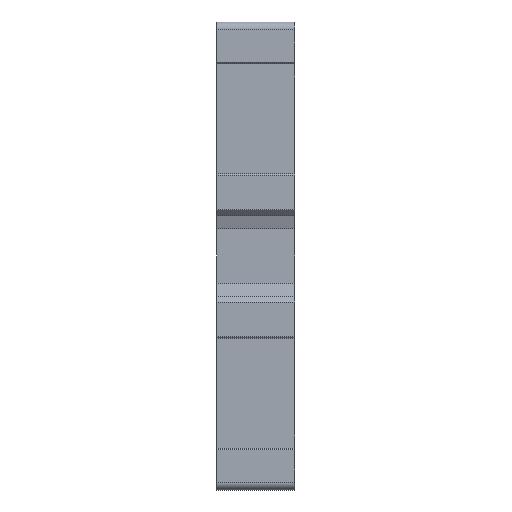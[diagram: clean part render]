
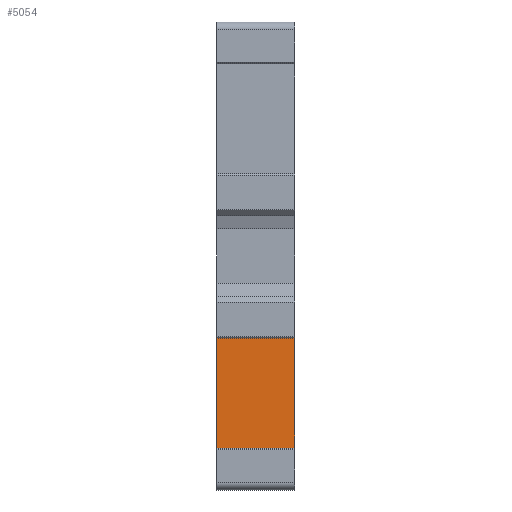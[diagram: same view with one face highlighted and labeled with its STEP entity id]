
A CAD part, left-side view. The second image highlights one B-rep face of the part: STEP entity #5054.
In plain terms, the highlighted planar face has unit normal (-1, 0, 0).
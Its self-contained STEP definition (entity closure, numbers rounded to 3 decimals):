
#271=DIRECTION('',(0.,0.,-1.));
#272=VECTOR('',#271,14.1);
#273=CARTESIAN_POINT('',(-29.8,0.,-10.53));
#274=LINE('',#273,#272);
#1007=DIRECTION('',(0.,0.,-1.));
#1008=VECTOR('',#1007,14.1);
#1009=CARTESIAN_POINT('',(-29.8,10.,-10.53));
#1010=LINE('',#1009,#1008);
#1879=DIRECTION('',(0.,1.,0.));
#1880=VECTOR('',#1879,10.);
#1881=CARTESIAN_POINT('',(-29.8,0.,-10.53));
#1882=LINE('',#1881,#1880);
#1883=DIRECTION('',(0.,1.,0.));
#1884=VECTOR('',#1883,10.);
#1885=CARTESIAN_POINT('',(-29.8,0.,-24.63));
#1886=LINE('',#1885,#1884);
#2522=CARTESIAN_POINT('',(-29.8,0.,-10.53));
#2524=VERTEX_POINT('',#2522);
#2525=CARTESIAN_POINT('',(-29.8,0.,-24.63));
#2526=VERTEX_POINT('',#2525);
#2586=CARTESIAN_POINT('',(-29.8,10.,-10.53));
#2588=VERTEX_POINT('',#2586);
#2589=CARTESIAN_POINT('',(-29.8,10.,-24.63));
#2590=VERTEX_POINT('',#2589);
#5042=CARTESIAN_POINT('',(-29.8,0.,-10.53));
#5043=DIRECTION('',(1.,0.,0.));
#5044=DIRECTION('',(0.,0.,-1.));
#5045=AXIS2_PLACEMENT_3D('',#5042,#5043,#5044);
#5046=PLANE('',#5045);
#5047=ORIENTED_EDGE('',*,*,#2656,.T.);
#5049=ORIENTED_EDGE('',*,*,#5048,.T.);
#5050=ORIENTED_EDGE('',*,*,#3302,.F.);
#5051=ORIENTED_EDGE('',*,*,#5035,.F.);
#5052=EDGE_LOOP('',(#5047,#5049,#5050,#5051));
#5053=FACE_OUTER_BOUND('',#5052,.F.);
#5054=ADVANCED_FACE('',(#5053),#5046,.F.);
#2656=EDGE_CURVE('',#2524,#2526,#274,.T.);
#3302=EDGE_CURVE('',#2588,#2590,#1010,.T.);
#5035=EDGE_CURVE('',#2524,#2588,#1882,.T.);
#5048=EDGE_CURVE('',#2526,#2590,#1886,.T.);
